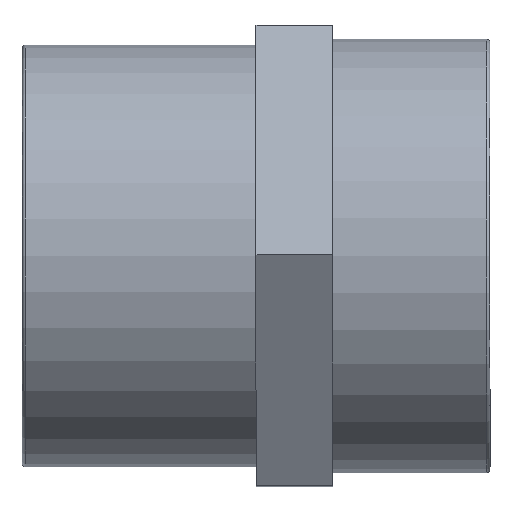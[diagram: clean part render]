
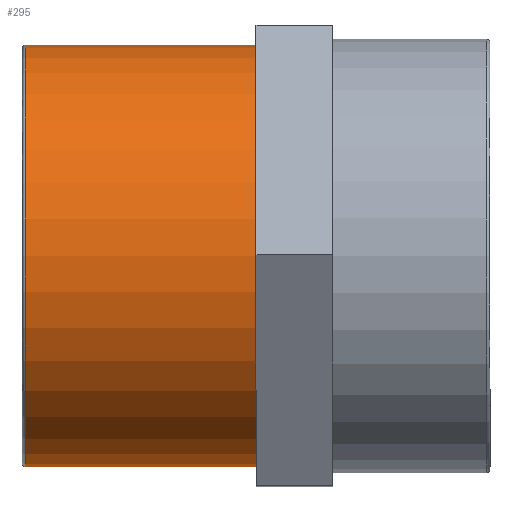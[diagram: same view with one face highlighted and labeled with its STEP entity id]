
A CAD part, top view. The second image highlights one B-rep face of the part: STEP entity #295.
In plain terms, the highlighted cylindrical face has radius 55 mm (diameter 110 mm), a full revolution.
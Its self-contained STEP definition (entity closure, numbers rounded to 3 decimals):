
#18=CYLINDRICAL_SURFACE('',#329,55.);
#29=FACE_BOUND('',#99,.T.);
#45=CIRCLE('',#328,55.);
#46=CIRCLE('',#330,55.);
#68=FACE_OUTER_BOUND('',#98,.T.);
#98=EDGE_LOOP('',(#246));
#99=EDGE_LOOP('',(#247));
#168=VERTEX_POINT('',#494);
#169=VERTEX_POINT('',#497);
#200=EDGE_CURVE('',#168,#168,#45,.T.);
#201=EDGE_CURVE('',#169,#169,#46,.T.);
#246=ORIENTED_EDGE('',*,*,#201,.T.);
#247=ORIENTED_EDGE('',*,*,#200,.F.);
#295=ADVANCED_FACE('',(#68,#29),#18,.T.);
#328=AXIS2_PLACEMENT_3D('',#495,#408,#409);
#329=AXIS2_PLACEMENT_3D('',#496,#410,#411);
#330=AXIS2_PLACEMENT_3D('',#498,#412,#413);
#408=DIRECTION('center_axis',(-1.,0.,0.));
#409=DIRECTION('ref_axis',(0.,1.,0.));
#410=DIRECTION('center_axis',(-1.,0.,0.));
#411=DIRECTION('ref_axis',(0.,-1.,0.));
#412=DIRECTION('center_axis',(-1.,0.,0.));
#413=DIRECTION('ref_axis',(0.,0.,1.));
#494=CARTESIAN_POINT('',(-60.1,-55.,0.));
#495=CARTESIAN_POINT('Origin',(-60.1,0.,0.));
#496=CARTESIAN_POINT('Origin',(-30.5,0.,0.));
#497=CARTESIAN_POINT('',(0.,-55.,0.));
#498=CARTESIAN_POINT('Origin',(0.,0.,
0.));
